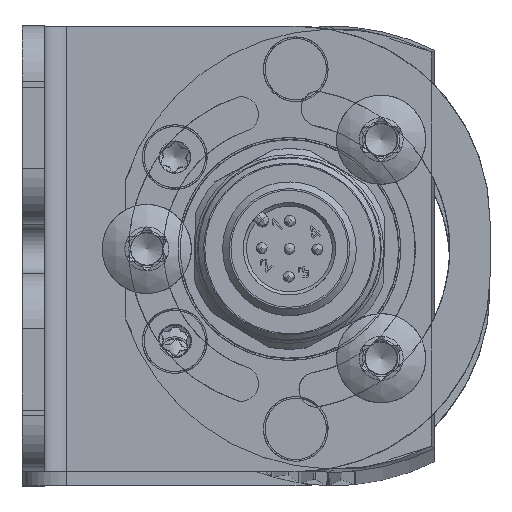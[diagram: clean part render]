
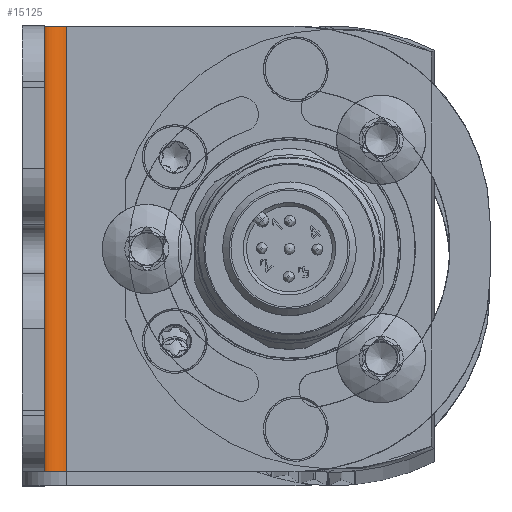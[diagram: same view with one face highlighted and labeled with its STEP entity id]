
A CAD part, top view. The second image highlights one B-rep face of the part: STEP entity #15125.
In plain terms, the highlighted cylindrical face has radius 2 mm (diameter 4 mm), a partial arc.
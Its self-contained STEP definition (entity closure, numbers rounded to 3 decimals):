
#1605=CIRCLE('',#16906,2.);
#1606=CIRCLE('',#16907,2.);
#1917=CYLINDRICAL_SURFACE('',#16905,2.);
#3456=FACE_OUTER_BOUND('',#4311,.T.);
#4311=EDGE_LOOP('',(#13755,#13756,#13757,#13758));
#4555=LINE('',#23844,#5364);
#5102=LINE('',#29240,#5911);
#5364=VECTOR('',#18235,10.);
#5911=VECTOR('',#21142,10.);
#6416=VERTEX_POINT('',#23841);
#6417=VERTEX_POINT('',#23843);
#7313=VERTEX_POINT('',#29238);
#7314=VERTEX_POINT('',#29239);
#8001=EDGE_CURVE('',#6416,#6417,#4555,.T.);
#9492=EDGE_CURVE('',#7313,#7314,#5102,.T.);
#9493=EDGE_CURVE('',#7313,#6417,#1605,.T.);
#9494=EDGE_CURVE('',#7314,#6416,#1606,.T.);
#13755=ORIENTED_EDGE('',*,*,#9492,.F.);
#13756=ORIENTED_EDGE('',*,*,#9493,.T.);
#13757=ORIENTED_EDGE('',*,*,#8001,.F.);
#13758=ORIENTED_EDGE('',*,*,#9494,.F.);
#15125=ADVANCED_FACE('',(#3456),#1917,.F.);
#16905=AXIS2_PLACEMENT_3D('',#29237,#21140,#21141);
#16906=AXIS2_PLACEMENT_3D('',#29241,#21143,#21144);
#16907=AXIS2_PLACEMENT_3D('',#29242,#21145,#21146);
#18235=DIRECTION('',(0.,-1.,0.));
#21140=DIRECTION('center_axis',(0.,1.,0.));
#21141=DIRECTION('ref_axis',(0.,0.,
-1.));
#21142=DIRECTION('',(0.,1.,0.));
#21143=DIRECTION('center_axis',(0.,-1.,0.));
#21144=DIRECTION('ref_axis',(-1.,0.,0.));
#21145=DIRECTION('center_axis',(0.,-1.,0.));
#21146=DIRECTION('ref_axis',(-1.,0.,0.));
#23841=CARTESIAN_POINT('',(-5.,8.398,517.552));
#23843=CARTESIAN_POINT('',(-5.,-31.602,517.552));
#23844=CARTESIAN_POINT('',(-5.,8.398,517.552));
#29237=CARTESIAN_POINT('Origin',(-5.,-11.602,519.552));
#29238=CARTESIAN_POINT('',(-7.,-31.602,519.552));
#29239=CARTESIAN_POINT('',(-7.,8.398,519.552));
#29240=CARTESIAN_POINT('',(-7.,-11.602,519.552));
#29241=CARTESIAN_POINT('Origin',(-5.,-31.602,519.552));
#29242=CARTESIAN_POINT('Origin',(-5.,8.398,519.552));
